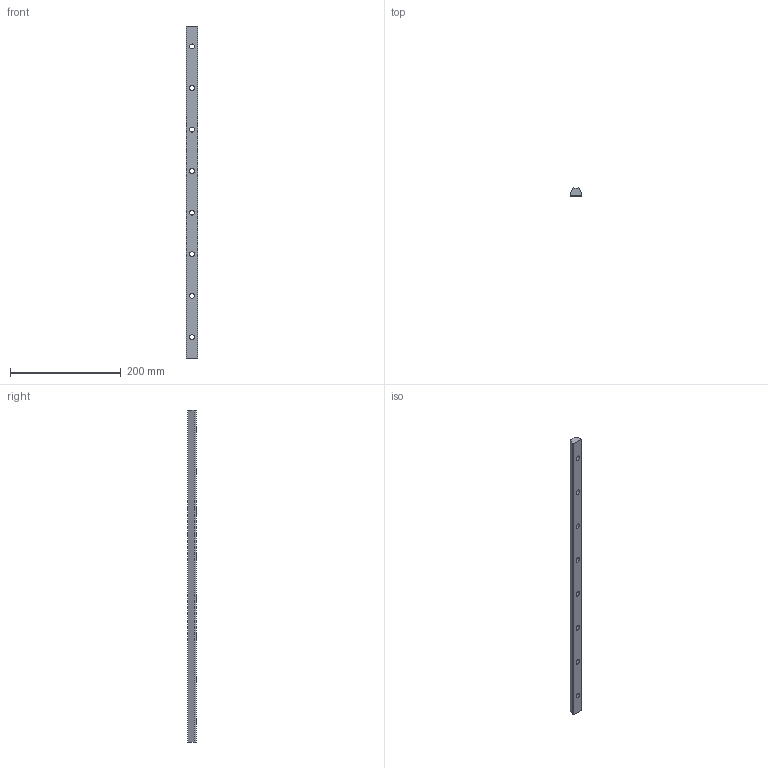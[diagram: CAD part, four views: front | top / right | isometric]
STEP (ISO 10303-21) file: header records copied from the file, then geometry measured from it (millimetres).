
FILE_DESCRIPTION (( 'STEP AP203' ), '1' );
FILE_NAME ('KWU16-25.step', '2020-03-23T07:54:05', ( '' ), ( '' ), 'SwSTEP 2.0', 'SolidWorks 2019', '' );
FILE_SCHEMA (( 'CONFIG_CONTROL_DESIGN' ));
Length unit declared in the file: millimetre
Products named in the file (2): KWU16-25
Bounding box: 21 x 14.6 x 599.5 mm (x, y, z)
Volume: 137936.9 mm3; surface area: 40795.9 mm2
Topology: 1 solids, 1 shells, 25 faces, 77 edges, 46 vertices
Faces by surface type: cylinder 16, plane 9
Entity records: 1026 total; most frequent: CARTESIAN_POINT 198, ORIENTED_EDGE 154, DIRECTION 131, EDGE_CURVE 77, VERTEX_POINT 46, LINE 45, VECTOR 45, AXIS2_PLACEMENT_3D 43
